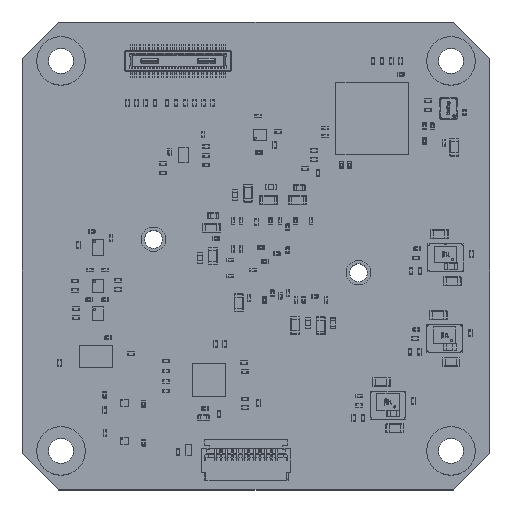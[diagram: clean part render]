
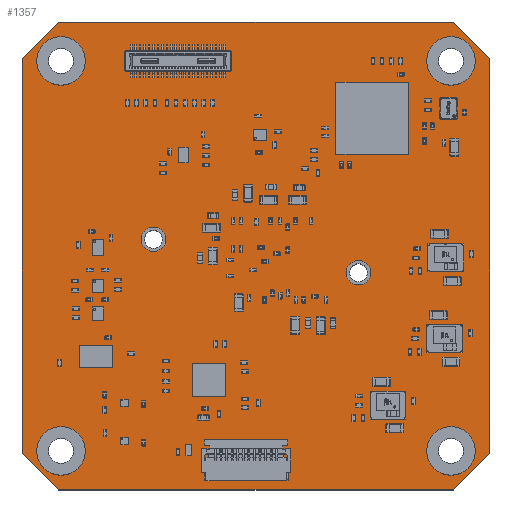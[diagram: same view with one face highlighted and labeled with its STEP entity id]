
A CAD part, top view. The second image highlights one B-rep face of the part: STEP entity #1357.
In plain terms, the highlighted planar face has unit normal (0, 0, 1).
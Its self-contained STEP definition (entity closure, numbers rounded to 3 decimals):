
#884 = VERTEX_POINT('',#885);
#885 = CARTESIAN_POINT('',(0.,3.3,1.604));
#891 = EDGE_CURVE('',#884,#892,#894,.T.);
#892 = VERTEX_POINT('',#893);
#893 = CARTESIAN_POINT('',(3.3,0.,1.604));
#894 = LINE('',#895,#896);
#895 = CARTESIAN_POINT('',(0.,3.3,1.604));
#896 = VECTOR('',#897,1.);
#897 = DIRECTION('',(0.707,-0.707,0.));
#922 = EDGE_CURVE('',#892,#923,#925,.T.);
#923 = VERTEX_POINT('',#924);
#924 = CARTESIAN_POINT('',(38.7,0.,1.604));
#925 = LINE('',#926,#927);
#926 = CARTESIAN_POINT('',(3.3,0.,1.604));
#927 = VECTOR('',#928,1.);
#928 = DIRECTION('',(1.,0.,0.));
#953 = EDGE_CURVE('',#923,#954,#956,.T.);
#954 = VERTEX_POINT('',#955);
#955 = CARTESIAN_POINT('',(42.,3.3,1.604));
#956 = LINE('',#957,#958);
#957 = CARTESIAN_POINT('',(38.7,0.,1.604));
#958 = VECTOR('',#959,1.);
#959 = DIRECTION('',(0.707,0.707,0.));
#984 = EDGE_CURVE('',#954,#985,#987,.T.);
#985 = VERTEX_POINT('',#986);
#986 = CARTESIAN_POINT('',(42.,38.7,1.604));
#987 = LINE('',#988,#989);
#988 = CARTESIAN_POINT('',(42.,3.3,1.604));
#989 = VECTOR('',#990,1.);
#990 = DIRECTION('',(0.,1.,0.));
#1015 = EDGE_CURVE('',#985,#1016,#1018,.T.);
#1016 = VERTEX_POINT('',#1017);
#1017 = CARTESIAN_POINT('',(38.7,42.,1.604));
#1018 = LINE('',#1019,#1020);
#1019 = CARTESIAN_POINT('',(42.,38.7,1.604));
#1020 = VECTOR('',#1021,1.);
#1021 = DIRECTION('',(-0.707,0.707,0.));
#1046 = EDGE_CURVE('',#1016,#1047,#1049,.T.);
#1047 = VERTEX_POINT('',#1048);
#1048 = CARTESIAN_POINT('',(3.3,42.,1.604));
#1049 = LINE('',#1050,#1051);
#1050 = CARTESIAN_POINT('',(38.7,42.,1.604));
#1051 = VECTOR('',#1052,1.);
#1052 = DIRECTION('',(-1.,0.,0.));
#1077 = EDGE_CURVE('',#1047,#1078,#1080,.T.);
#1078 = VERTEX_POINT('',#1079);
#1079 = CARTESIAN_POINT('',(0.,38.7,1.604));
#1080 = LINE('',#1081,#1082);
#1081 = CARTESIAN_POINT('',(3.3,42.,1.604));
#1082 = VECTOR('',#1083,1.);
#1083 = DIRECTION('',(-0.707,-0.707,0.));
#1108 = EDGE_CURVE('',#1078,#884,#1109,.T.);
#1109 = LINE('',#1110,#1111);
#1110 = CARTESIAN_POINT('',(0.,38.7,1.604));
#1111 = VECTOR('',#1112,1.);
#1112 = DIRECTION('',(0.,-1.,0.));
#1132 = VERTEX_POINT('',#1133);
#1133 = CARTESIAN_POINT('',(5.,3.5,1.604));
#1139 = EDGE_CURVE('',#1132,#1132,#1140,.T.);
#1140 = CIRCLE('',#1141,1.5);
#1141 = AXIS2_PLACEMENT_3D('',#1142,#1143,#1144);
#1142 = CARTESIAN_POINT('',(3.5,3.5,1.604));
#1143 = DIRECTION('',(0.,0.,1.));
#1144 = DIRECTION('',(1.,0.,-0.));
#1165 = VERTEX_POINT('',#1166);
#1166 = CARTESIAN_POINT('',(5.,38.5,1.604));
#1172 = EDGE_CURVE('',#1165,#1165,#1173,.T.);
#1173 = CIRCLE('',#1174,1.5);
#1174 = AXIS2_PLACEMENT_3D('',#1175,#1176,#1177);
#1175 = CARTESIAN_POINT('',(3.5,38.5,1.604));
#1176 = DIRECTION('',(0.,0.,1.));
#1177 = DIRECTION('',(1.,0.,-0.));
#1198 = VERTEX_POINT('',#1199);
#1199 = CARTESIAN_POINT('',(12.9,22.5,1.604));
#1205 = EDGE_CURVE('',#1198,#1198,#1206,.T.);
#1206 = CIRCLE('',#1207,1.1);
#1207 = AXIS2_PLACEMENT_3D('',#1208,#1209,#1210);
#1208 = CARTESIAN_POINT('',(11.8,22.5,1.604));
#1209 = DIRECTION('',(0.,0.,1.));
#1210 = DIRECTION('',(1.,0.,-0.));
#1231 = VERTEX_POINT('',#1232);
#1232 = CARTESIAN_POINT('',(40.,3.5,1.604));
#1238 = EDGE_CURVE('',#1231,#1231,#1239,.T.);
#1239 = CIRCLE('',#1240,1.5);
#1240 = AXIS2_PLACEMENT_3D('',#1241,#1242,#1243);
#1241 = CARTESIAN_POINT('',(38.5,3.5,1.604));
#1242 = DIRECTION('',(0.,0.,1.));
#1243 = DIRECTION('',(1.,0.,-0.));
#1264 = VERTEX_POINT('',#1265);
#1265 = CARTESIAN_POINT('',(31.3,19.5,1.604));
#1271 = EDGE_CURVE('',#1264,#1264,#1272,.T.);
#1272 = CIRCLE('',#1273,1.1);
#1273 = AXIS2_PLACEMENT_3D('',#1274,#1275,#1276);
#1274 = CARTESIAN_POINT('',(30.2,19.5,1.604));
#1275 = DIRECTION('',(0.,0.,1.));
#1276 = DIRECTION('',(1.,0.,-0.));
#1297 = VERTEX_POINT('',#1298);
#1298 = CARTESIAN_POINT('',(40.,38.5,1.604));
#1304 = EDGE_CURVE('',#1297,#1297,#1305,.T.);
#1305 = CIRCLE('',#1306,1.5);
#1306 = AXIS2_PLACEMENT_3D('',#1307,#1308,#1309);
#1307 = CARTESIAN_POINT('',(38.5,38.5,1.604));
#1308 = DIRECTION('',(0.,0.,1.));
#1309 = DIRECTION('',(1.,0.,-0.));
#1357 = ADVANCED_FACE('',(#1358,#1368,#1371,#1374,#1377,#1380,#1383),
  #1386,.T.);
#1358 = FACE_BOUND('',#1359,.T.);
#1359 = EDGE_LOOP('',(#1360,#1361,#1362,#1363,#1364,#1365,#1366,#1367));
#1360 = ORIENTED_EDGE('',*,*,#891,.T.);
#1361 = ORIENTED_EDGE('',*,*,#922,.T.);
#1362 = ORIENTED_EDGE('',*,*,#953,.T.);
#1363 = ORIENTED_EDGE('',*,*,#984,.T.);
#1364 = ORIENTED_EDGE('',*,*,#1015,.T.);
#1365 = ORIENTED_EDGE('',*,*,#1046,.T.);
#1366 = ORIENTED_EDGE('',*,*,#1077,.T.);
#1367 = ORIENTED_EDGE('',*,*,#1108,.T.);
#1368 = FACE_BOUND('',#1369,.T.);
#1369 = EDGE_LOOP('',(#1370));
#1370 = ORIENTED_EDGE('',*,*,#1139,.F.);
#1371 = FACE_BOUND('',#1372,.T.);
#1372 = EDGE_LOOP('',(#1373));
#1373 = ORIENTED_EDGE('',*,*,#1172,.F.);
#1374 = FACE_BOUND('',#1375,.T.);
#1375 = EDGE_LOOP('',(#1376));
#1376 = ORIENTED_EDGE('',*,*,#1205,.F.);
#1377 = FACE_BOUND('',#1378,.T.);
#1378 = EDGE_LOOP('',(#1379));
#1379 = ORIENTED_EDGE('',*,*,#1238,.F.);
#1380 = FACE_BOUND('',#1381,.T.);
#1381 = EDGE_LOOP('',(#1382));
#1382 = ORIENTED_EDGE('',*,*,#1271,.F.);
#1383 = FACE_BOUND('',#1384,.T.);
#1384 = EDGE_LOOP('',(#1385));
#1385 = ORIENTED_EDGE('',*,*,#1304,.F.);
#1386 = PLANE('',#1387);
#1387 = AXIS2_PLACEMENT_3D('',#1388,#1389,#1390);
#1388 = CARTESIAN_POINT('',(21.,21.,1.604));
#1389 = DIRECTION('',(0.,0.,1.));
#1390 = DIRECTION('',(1.,0.,-0.));
